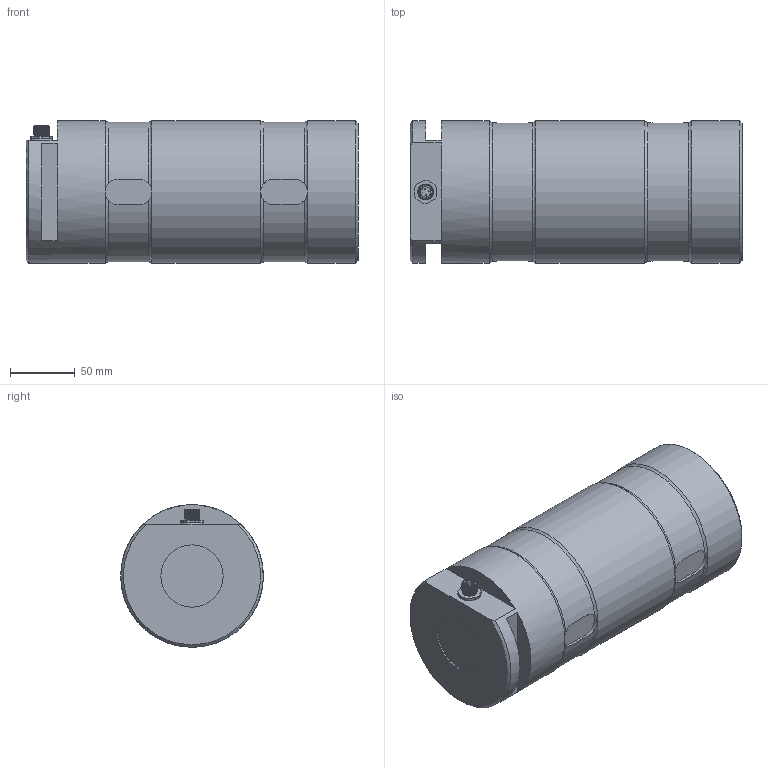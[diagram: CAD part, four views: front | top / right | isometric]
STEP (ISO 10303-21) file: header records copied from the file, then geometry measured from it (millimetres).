
FILE_DESCRIPTION(/* description */ ('Alibre Inc.'),/* implementation_level */ '2;1');
FILE_NAME(/* name */ 'export0',/* time_stamp */ '2011-12-22T18:02:06+01:00',/* author */ (''),/* organization */ (''),/* preprocessor_version */ 'ST-DEVELOPER v10',/* originating_system */ 'Alibre',/* authorisation */ '');
FILE_SCHEMA (('CONFIG_CONTROL_DESIGN'));
Length unit declared in the file: centimetre
Products named in the file (6): ID_1; ID_2; ID_3
Bounding box: 256 x 110 x 110 mm (x, y, z)
Volume: 2361305.5 mm3; surface area: 114901.5 mm2
Topology: 8 solids, 8 shells, 154 faces, 342 edges, 211 vertices
Faces by surface type: plane 65, cylinder 51, bspline 23, torus 9, cone 6
Full cylindrical faces by diameter (mm): 0.5 x8, 8 x3, 10 x3, 10.376 x1, 11.5 x1, 13 x1, 48 x1, 110 x3
Entity records: 15783 total; most frequent: CARTESIAN_POINT 12468, ORIENTED_EDGE 612, DIRECTION 399, EDGE_CURVE 301, VERTEX_POINT 199, FACE_BOUND 197, EDGE_LOOP 196, AXIS2_PLACEMENT_3D 185
